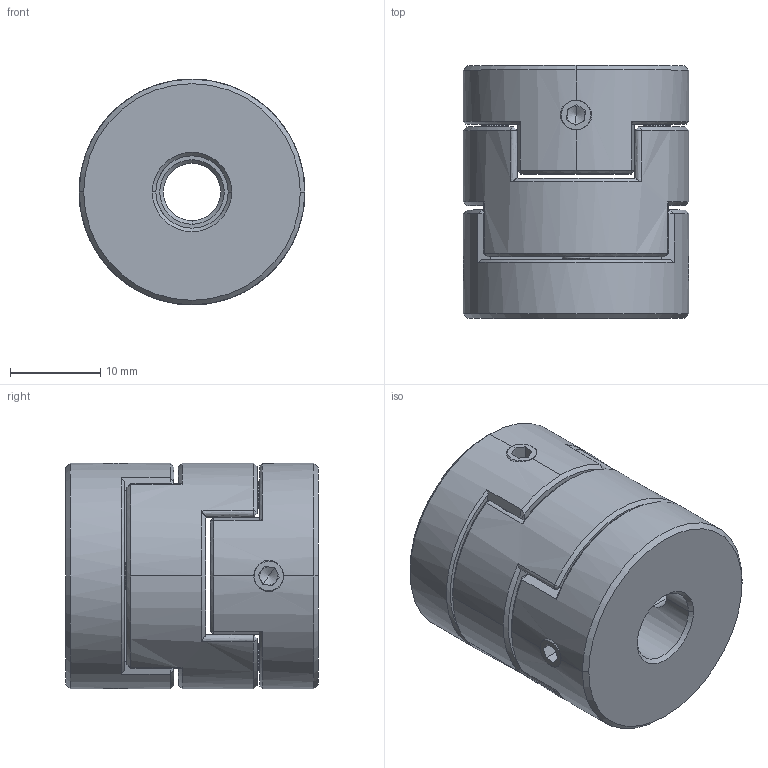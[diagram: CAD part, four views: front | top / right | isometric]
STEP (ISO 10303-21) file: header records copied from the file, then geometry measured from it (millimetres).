
FILE_DESCRIPTION (( 'STEP AP203' ), '1' );
FILE_NAME ('LZ-D-D25L28-6.35-8.STEP', '2021-10-30T02:14:40', ( '' ), ( '' ), 'SwSTEP 2.0', 'SolidWorks 2018', '' );
FILE_SCHEMA (( 'CONFIG_CONTROL_DESIGN' ));
Length unit declared in the file: millimetre
Products named in the file (1): LZ-D-D25L28-6.35-8
Bounding box: 25 x 28 x 25 mm (x, y, z)
Volume: 11745.1 mm3; surface area: 5550.1 mm2
Topology: 1 solids, 1 shells, 218 faces, 574 edges, 348 vertices
Faces by surface type: plane 88, cone 54, bspline 50, cylinder 26
Entity records: 9880 total; most frequent: CARTESIAN_POINT 4956, ORIENTED_EDGE 1132, DIRECTION 834, EDGE_CURVE 566, VERTEX_POINT 348, AXIS2_PLACEMENT_3D 303, EDGE_LOOP 234, LINE 228
